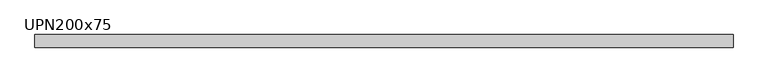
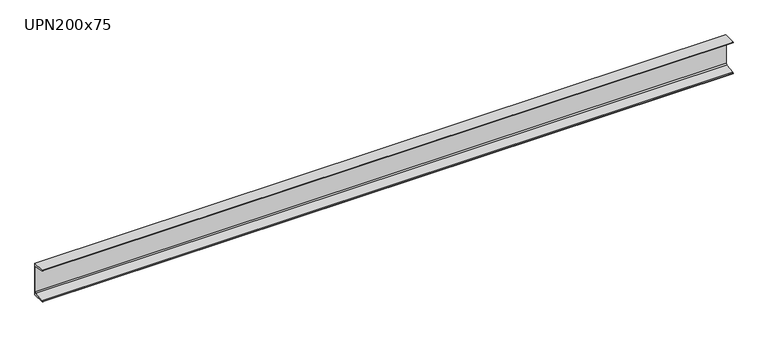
"""IFC4 building model written with IfcOpenShell, lengths in millimetres: beam geometry, M_MC Shapes : UPN200x75."""

from ifc_helpers import new_model, si_unit, point, frame, frame_2d, origin, place, context, project, spatial, polyline, circle_curve, trimmed, segment, composite_curve, outline, extrude, source, transform, mapped, element, save


def upn200x75_cb59e596(model_context):
    return source(origin(), model_context, "Body", "SweptSolid", [
        extrude(outline(composite_curve([segment(polyline([(10.9, 100.0), (10.9, -100.0), (-64.1, -100.0), (-64.1, -99.0253247)]), True, "CONTINUOUS"), segment(trimmed(circle_curve(frame_2d((-60.15, -99.0253247)), 3.95), [point((-64.1, -99.0253247))], [point((-60.7993773, -95.1290689))], False, "CARTESIAN"), True, "CONTINUOUS"), segment(polyline([(-60.7993773, -95.1290689), (-0.2512455, -85.0376935)]), True, "CONTINUOUS"), segment(trimmed(circle_curve(frame_2d((-1.55, -77.2451819)), 7.9), [point((-0.2512455, -85.0376935))], [point((6.35, -77.2451819))], True, "CARTESIAN"), True, "CONTINUOUS"), segment(polyline([(6.35, -77.2451819), (6.35, 77.2451819)]), True, "CONTINUOUS"), segment(trimmed(circle_curve(frame_2d((-1.55, 77.2451819)), 7.9), [point((6.35, 77.2451819))], [point((-0.2512455, 85.0376935))], True, "CARTESIAN"), True, "CONTINUOUS"), segment(polyline([(-0.2512455, 85.0376935), (-60.7993773, 95.1290689)]), True, "CONTINUOUS"), segment(trimmed(circle_curve(frame_2d((-60.15, 99.0253247)), 3.95), [point((-60.7993773, 95.1290689))], [point((-64.1, 99.0253247))], False, "CARTESIAN"), True, "CONTINUOUS"), segment(polyline([(-64.1, 99.0253247), (-64.1, 100.0), (10.9, 100.0)]), True, "CONTINUOUS")], self_intersect=False)), frame((-2123.9, 0.0, 0.0), z_axis=(1.0, 0.0, 0.0), x_axis=(0.0, 1.0, 0.0)), (0.0, 0.0, 1.0), 4149.0),
    ])


if __name__ == "__main__":
    model = new_model("IFC4")
    model_context = context("Model", 3, world=origin())
    ifc_project = project(units=[si_unit("LENGTHUNIT", "METRE", prefix="MILLI")], contexts=[model_context])
    site = spatial("IfcSite", under=ifc_project)
    building = spatial("IfcBuilding", under=site)
    placement = place(None, origin())
    upn200x75_shape = upn200x75_cb59e596(model_context)
    element("IfcBeam", 1, ObjectType="M_MC Shapes : UPN200x75", at=placement, inside=building, context=model_context, shape_type="MappedRepresentation", body=[
        mapped(upn200x75_shape, transform((0.0, 0.0, 0.0), x_axis=(1.0, 0.0, 0.0), y_axis=(0.0, 1.0, 0.0), z_axis=(0.0, 0.0, 1.0))),
    ])
    save(model, "model.ifc")
